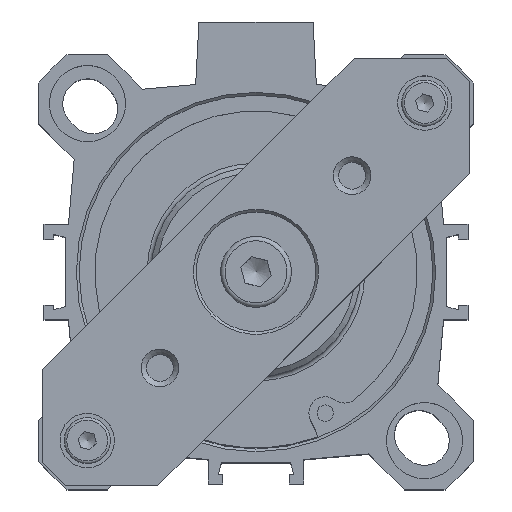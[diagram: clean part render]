
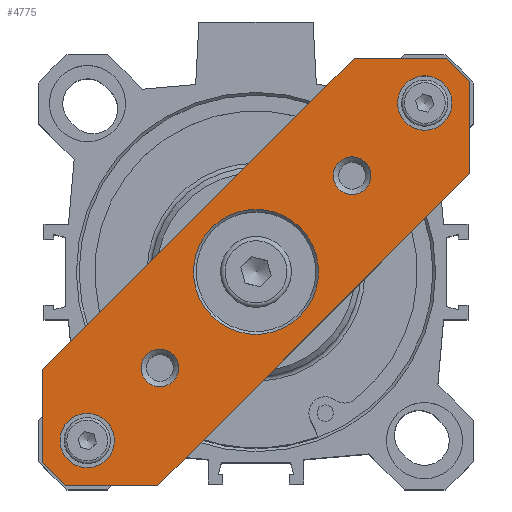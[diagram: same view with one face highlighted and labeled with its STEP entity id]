
A CAD part, top view. The second image highlights one B-rep face of the part: STEP entity #4775.
In plain terms, the highlighted planar face has unit normal (0, 0, 1).
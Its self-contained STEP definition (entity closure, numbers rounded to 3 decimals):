
#322=LINE('',#9835,#672);
#326=LINE('',#9844,#676);
#329=LINE('',#9912,#679);
#330=LINE('',#9914,#680);
#331=LINE('',#9916,#681);
#332=LINE('',#9917,#682);
#333=LINE('',#9919,#683);
#334=LINE('',#9921,#684);
#672=VECTOR('',#8290,1000.);
#676=VECTOR('',#8296,1000.);
#679=VECTOR('',#8379,1000.);
#680=VECTOR('',#8380,1000.);
#681=VECTOR('',#8381,1000.);
#682=VECTOR('',#8382,1000.);
#683=VECTOR('',#8383,1000.);
#684=VECTOR('',#8384,1000.);
#1737=ORIENTED_EDGE('',*,*,#2551,.F.);
#1738=ORIENTED_EDGE('',*,*,#2543,.T.);
#1739=ORIENTED_EDGE('',*,*,#2546,.T.);
#1740=ORIENTED_EDGE('',*,*,#2550,.F.);
#1741=ORIENTED_EDGE('',*,*,#2553,.F.);
#1742=ORIENTED_EDGE('',*,*,#2565,.F.);
#1743=ORIENTED_EDGE('',*,*,#2566,.F.);
#1744=ORIENTED_EDGE('',*,*,#2567,.F.);
#1745=ORIENTED_EDGE('',*,*,#2535,.F.);
#1746=ORIENTED_EDGE('',*,*,#2568,.F.);
#1747=ORIENTED_EDGE('',*,*,#2569,.F.);
#1748=ORIENTED_EDGE('',*,*,#2570,.F.);
#1749=ORIENTED_EDGE('',*,*,#2539,.F.);
#2535=EDGE_CURVE('',#3036,#3038,#322,.T.);
#2539=EDGE_CURVE('',#3040,#3042,#326,.T.);
#2543=EDGE_CURVE('',#3045,#3045,#3334,.T.);
#2546=EDGE_CURVE('',#3048,#3048,#3337,.T.);
#2550=EDGE_CURVE('',#3052,#3052,#3341,.T.);
#2551=EDGE_CURVE('',#3053,#3053,#3342,.T.);
#2553=EDGE_CURVE('',#3055,#3055,#3344,.T.);
#2565=EDGE_CURVE('',#3067,#3040,#329,.T.);
#2566=EDGE_CURVE('',#3068,#3067,#330,.T.);
#2567=EDGE_CURVE('',#3038,#3068,#331,.T.);
#2568=EDGE_CURVE('',#3069,#3036,#332,.T.);
#2569=EDGE_CURVE('',#3070,#3069,#333,.T.);
#2570=EDGE_CURVE('',#3042,#3070,#334,.T.);
#3036=VERTEX_POINT('',#9833);
#3038=VERTEX_POINT('',#9836);
#3040=VERTEX_POINT('',#9842);
#3042=VERTEX_POINT('',#9845);
#3045=VERTEX_POINT('',#9853);
#3048=VERTEX_POINT('',#9861);
#3052=VERTEX_POINT('',#9872);
#3053=VERTEX_POINT('',#9875);
#3055=VERTEX_POINT('',#9880);
#3067=VERTEX_POINT('',#9913);
#3068=VERTEX_POINT('',#9915);
#3069=VERTEX_POINT('',#9918);
#3070=VERTEX_POINT('',#9920);
#3334=CIRCLE('',#7193,5.);
#3337=CIRCLE('',#7198,5.);
#3341=CIRCLE('',#7205,11.5);
#3342=CIRCLE('',#7207,3.459);
#3344=CIRCLE('',#7210,3.459);
#3731=EDGE_LOOP('',(#1737));
#3732=EDGE_LOOP('',(#1738));
#3733=EDGE_LOOP('',(#1739));
#3734=EDGE_LOOP('',(#1740));
#3735=EDGE_LOOP('',(#1741));
#3736=EDGE_LOOP('',(#1742,#1743,#1744,#1745,#1746,#1747,#1748,#1749));
#4214=FACE_BOUND('',#3731,.T.);
#4215=FACE_BOUND('',#3732,.T.);
#4216=FACE_BOUND('',#3733,.T.);
#4217=FACE_BOUND('',#3734,.T.);
#4218=FACE_BOUND('',#3735,.T.);
#4219=FACE_BOUND('',#3736,.T.);
#4522=PLANE('',#7230);
#4775=ADVANCED_FACE('',(#4214,#4215,#4216,#4217,#4218,#4219),#4522,.T.);
#7193=AXIS2_PLACEMENT_3D('',#9852,#8303,#8304);
#7198=AXIS2_PLACEMENT_3D('',#9860,#8313,#8314);
#7205=AXIS2_PLACEMENT_3D('',#9871,#8327,#8328);
#7207=AXIS2_PLACEMENT_3D('',#9874,#8331,#8332);
#7210=AXIS2_PLACEMENT_3D('',#9879,#8337,#8338);
#7230=AXIS2_PLACEMENT_3D('',#9911,#8377,#8378);
#8290=DIRECTION('',(-1.,0.,0.));
#8296=DIRECTION('',(1.,0.,0.));
#8303=DIRECTION('',(0.,0.,-1.));
#8304=DIRECTION('',(1.,0.,0.));
#8313=DIRECTION('',(0.,0.,-1.));
#8314=DIRECTION('',(1.,0.,0.));
#8327=DIRECTION('',(0.,0.,1.));
#8328=DIRECTION('',(-1.,0.,0.));
#8331=DIRECTION('',(0.,0.,1.));
#8332=DIRECTION('',(-1.,0.,0.));
#8337=DIRECTION('',(0.,0.,1.));
#8338=DIRECTION('',(-1.,0.,0.));
#8377=DIRECTION('',(0.,0.,1.));
#8378=DIRECTION('',(1.,0.,0.));
#8379=DIRECTION('',(0.707,0.707,0.));
#8380=DIRECTION('',(0.,1.,0.));
#8381=DIRECTION('',(-0.707,0.707,0.));
#8382=DIRECTION('',(-0.707,-0.707,0.));
#8383=DIRECTION('',(0.,-1.,0.));
#8384=DIRECTION('',(0.707,-0.707,0.));
#9833=CARTESIAN_POINT('',(40.5,-15.,6.));
#9835=CARTESIAN_POINT('',(40.5,-15.,6.));
#9836=CARTESIAN_POINT('',(-40.5,-15.,6.));
#9842=CARTESIAN_POINT('',(-40.5,15.,6.));
#9844=CARTESIAN_POINT('',(-40.5,15.,6.));
#9845=CARTESIAN_POINT('',(40.5,15.,6.));
#9852=CARTESIAN_POINT('',(-43.9,0.,6.));
#9853=CARTESIAN_POINT('',(-38.9,0.,6.));
#9860=CARTESIAN_POINT('',(43.9,0.,6.));
#9861=CARTESIAN_POINT('',(48.9,0.,6.));
#9871=CARTESIAN_POINT('',(0.,0.,6.));
#9872=CARTESIAN_POINT('',(11.5,0.,6.));
#9874=CARTESIAN_POINT('',(-25.,0.,6.));
#9875=CARTESIAN_POINT('',(-21.542,0.,6.));
#9879=CARTESIAN_POINT('',(25.,0.,6.));
#9880=CARTESIAN_POINT('',(28.459,0.,6.));
#9911=CARTESIAN_POINT('',(0.,0.,6.));
#9912=CARTESIAN_POINT('',(-52.5,3.,6.));
#9913=CARTESIAN_POINT('',(-52.5,3.,6.));
#9914=CARTESIAN_POINT('',(-52.5,-3.,6.));
#9915=CARTESIAN_POINT('',(-52.5,-3.,6.));
#9916=CARTESIAN_POINT('',(-40.5,-15.,6.));
#9917=CARTESIAN_POINT('',(52.5,-3.,6.));
#9918=CARTESIAN_POINT('',(52.5,-3.,6.));
#9919=CARTESIAN_POINT('',(52.5,3.,6.));
#9920=CARTESIAN_POINT('',(52.5,3.,6.));
#9921=CARTESIAN_POINT('',(40.5,15.,6.));
